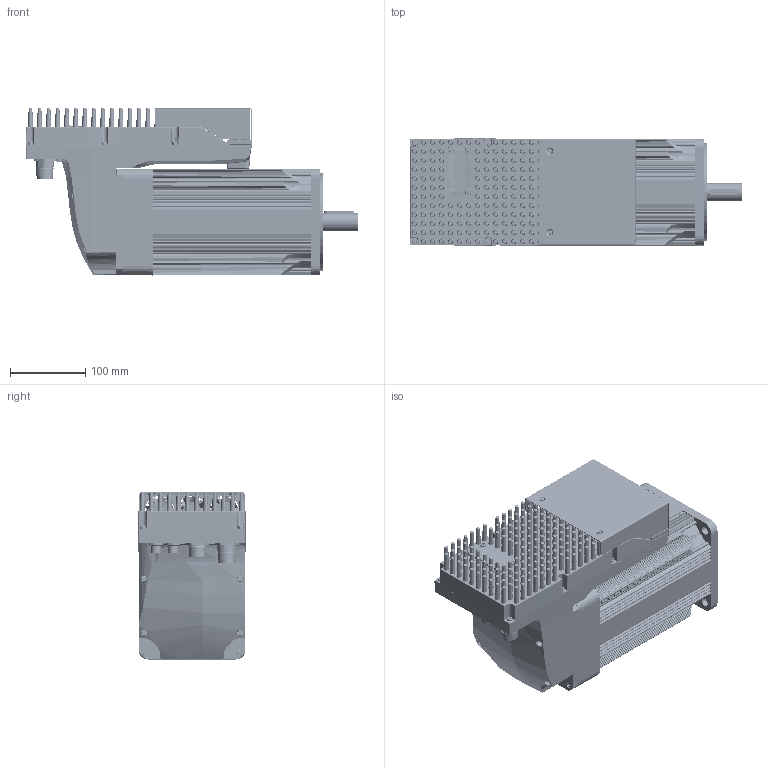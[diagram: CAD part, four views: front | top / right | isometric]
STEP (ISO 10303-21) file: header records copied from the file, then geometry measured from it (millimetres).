
FILE_DESCRIPTION( ( 'Unknown' ), '1' );
FILE_NAME( 'X:/Tecnico/ARCHIVIO PRODOTTI/11_DUET/DUET HV - CMZ/05_Disegni/DUET HV 142/Disegni DUET HV 142 - 3D step MPC/DUET.HV.142.16,5.xx.xx.0.E.0.stp', 'Unknown', ( 'Unknown' ), ( 'Unknown' ), 'PSStep 17.0.49', 'Unknown', ' ' );
FILE_SCHEMA( ( 'AUTOMOTIVE_DESIGN { 1 0 10303 214 1 1 1 1 }' ) );
Length unit declared in the file: millimetre
Products named in the file (79): J_7651000000; Connettore_M23_pot; J_7001919137; frutto 16+3; contatto_1mm; contatto_1.5.mm; J_7458000000; Connettore_M23_IO; LC091104.1.0; J_7084943101; JAC7010942001; JAC7010941001; LC101004.2.2.n; JS20MNQD6; JS26FSQ7; LT709037RLF1; UKSZ8721BLI; UET1100; JTP1633-2; PC101004.1.0; DLS5977701507; DLRR; DLRV; DWFR01FR10PS; LC091112.1.0; J_RKMHL4S55; PC091112.1.0; J_4301236; 052410000001; MD201105.2.0; MD131108.2.0; MD131115.2.0; MD131109.2.0; dado_M8_lumberg; dado_M12_conec; Dado_M23_IO; V_VTCTX40X14A; V_VTCTX3X6(8.8); ALVDD4028M24BPLB2B-7; MD081003.2.0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
Assembly tree (148 placements, depth 5):
  Assem1
    003251006740
    005123001100
    005123001100
    005123001100
    005123001100
    005123001100
    005123001100
    005123001100
    005123001100
    005123001100
    005755000300
    005751000710  x3
    005123000110
    005123000110
    005123000110
    005123000110
    005123000110
    005123000110
    005123000110
    005123000110
    005008000310  x3
    003103040122
    N49600_L_226  x8
    005008000740
    005007000090
    anello di rasamento 40_46,5_0,5
    005755000080
    005911000550  x4
    005113000600
    MD201109.2.0
    003107003227
    005911000209  x4
    005008000668
    N25600_16,5
    N01627
    005799000505
      005911003655  x2
      MD131106.2.0
    052410000001
      MD201105.2.0
      MD131108.2.0
      MD131115.2.0
      MD131109.2.0
      dado_M8_lumberg
      dado_M12_conec  x2
      Dado_M23_IO  x2
      V_VTCTX40X14A  x8
      V_VTCTX3X6(8.8)  x6
      ALVDD4028M24BPLB2B-7  x3
      MD081003.2.0
      LC091104.1.0
        J_7084943101
        JAC7010942001  x3
        JAC7010941001  x4
        J_7001919137
          frutto 16+3
          contatto_1mm  x16
          contatto_1.5.mm  x3
        J_7458000000
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Bounding box: 441.5 x 143.27 x 222.09 mm (x, y, z)
Volume: 2836612.8 mm3; surface area: 1339451.3 mm2
Topology: 140 solids, 140 shells, 12556 faces, 31404 edges, 19713 vertices
Faces by surface type: plane 5679, cylinder 3603, torus 1148, bspline 988, cone 849, sphere 271, revolution 16, extrusion 2
Full cylindrical faces by diameter (mm): 0.182 x20, 0.207 x3, 0.245 x1, 0.253 x40, 0.31 x2, 0.443 x6, 0.5 x4, 0.511 x2, 0.6 x52, 0.65 x6, 0.7 x16, 0.8 x102, 0.81 x2, 0.813 x15, 0.828 x2, 0.991 x58, 1 x56, 1.092 x20, 1.14 x2, 1.295 x8, 1.363 x1, 1.4 x6, 1.5 x3, 1.55 x2, 1.6 x8, 1.8 x4, 1.98 x2, 2 x59, 2.459 x16, 2.5 x12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
Entity records: 452751 total; most frequent: CARTESIAN_POINT 153304, ORIENTED_EDGE 44572, DIRECTION 44278, EDGE_CURVE 22286, AXIS2_PLACEMENT_3D 16711, VERTEX_POINT 14850, EDGE_LOOP 12524, FACE_OUTER_BOUND 10939
